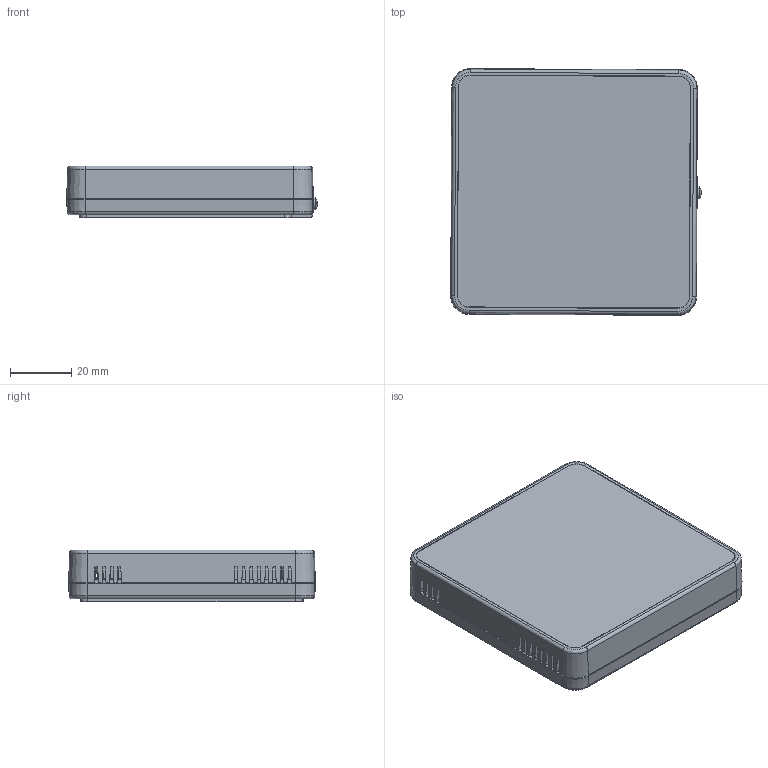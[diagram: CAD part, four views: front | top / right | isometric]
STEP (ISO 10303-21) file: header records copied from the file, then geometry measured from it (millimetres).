
FILE_DESCRIPTION(/* description */ ('','CAx-IF Rec.Pracs.---Representation and Presentation of Product Manufacturing Information (PMI)---4.0---2014-10-13'),/* implementation_level */ '2;1');
FILE_NAME(/* name */ 'R-8Z.step',/* time_stamp */ '2025-03-03T21:39:13+01:00',/* author */ (''),/* organization */ (''),/* preprocessor_version */ 'ST-DEVELOPER v20',/* originating_system */ 'Autodesk Translation Framework v13.20.0.188',/* authorisation */ '');
FILE_SCHEMA (('AP242_MANAGED_MODEL_BASED_3D_ENGINEERING_MIM_LF { 1 0 10303 442 1 1 4 }'));
Products named in the file (35): czujnik pomieszczenia22.02; czujnik pomieszczenia22.02_1; tył; switch DTSHW-69; plexa; podstawka wyswietlacz lcd; wyswietlacz LCD bd-xt503221b; zawieszka2; ISO 7049 - F-Z ST 2,2 x 6,5 - F - Z; Antena 930; ST-930_6_A; PCB Component_1; Board_1; C0805_1; R0805_1; TQFP64_1; RFM22B_S1_1; P642_1; ANGLE-SW1-16_1_1; SMC_C; FIDUCIAL_G10_1; 2X02_1; C1206_1; 1X02_R; DTSH_1; BD-XT503221B; 153CLV-0605; MICRO3; Komponent33; R-8Z FARBA; Komponent1; Komponent2; Komponent35; TB-3.5-P-2P_BL; Komponent36
Assembly tree (57 placements, depth 4):
  czujnik pomieszczenia22.02
    czujnik pomieszczenia22.02_1
    tył
    switch DTSHW-69
    plexa
    podstawka wyswietlacz lcd
    wyswietlacz LCD bd-xt503221b
    zawieszka2
    ISO 7049 - F-Z ST 2,2 x 6,5 - F - Z  x5
    Antena 930
    ST-930_6_A
      PCB Component_1
        Board_1
        C0805_1  x9
        R0805_1  x7
        TQFP64_1
        RFM22B_S1_1
        P642_1
        ANGLE-SW1-16_1_1  x2
        SMC_C
        FIDUCIAL_G10_1  x2
        2X02_1  x2
        C1206_1  x3
        1X02_R
        DTSH_1
        BD-XT503221B
        153CLV-0605
        MICRO3
    Komponent33
    R-8Z FARBA
      Komponent1
      Komponent2
    Komponent35
    TB-3.5-P-2P_BL
    Komponent36
Bounding box: 81.61 x 80.33 x 16.9 mm (x, y, z)
Volume: 56033 mm3; surface area: 82124 mm2
Topology: 91 solids, 91 shells, 3008 faces, 7801 edges, 5155 vertices
Faces by surface type: plane 1839, bspline 723, cylinder 225, cone 183, torus 33, sphere 5
Full cylindrical faces by diameter (mm): 0.5 x40, 0.6 x53, 0.8 x9, 0.9 x10, 1 x24, 1.016 x4, 1.2 x1, 1.5 x7, 1.6 x1, 1.8 x5, 2 x2, 2.14 x1, 2.2 x9, 2.5 x7, 2.8 x4, 3 x1, 3.5 x1, 3.8 x1, 4 x2, 4.2 x2
Entity records: 96940 total; most frequent: CARTESIAN_POINT 31287, ORIENTED_EDGE 14312, DIRECTION 10759, EDGE_CURVE 7156, LINE 4909, VECTOR 4909, VERTEX_POINT 4731, EDGE_LOOP 3303
